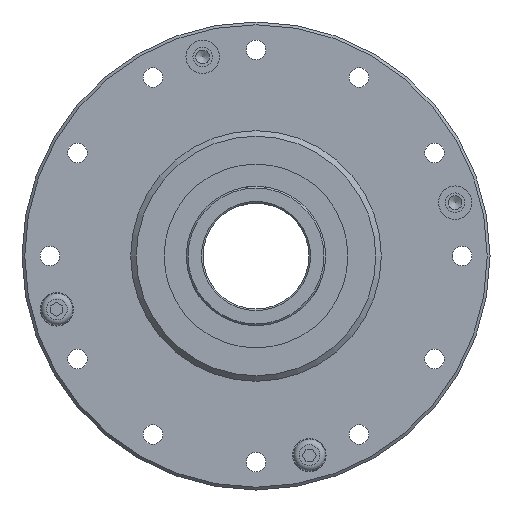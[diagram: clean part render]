
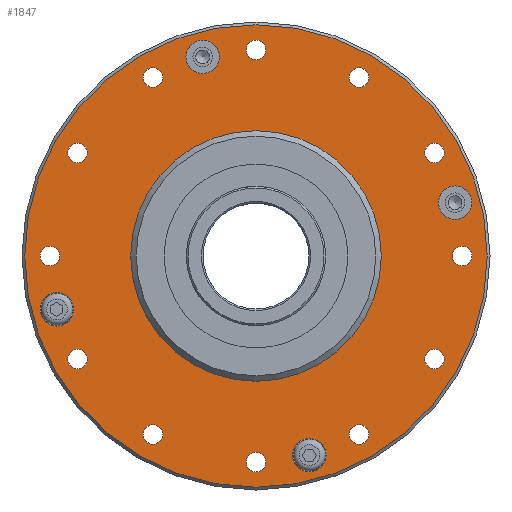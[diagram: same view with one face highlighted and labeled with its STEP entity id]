
A CAD part, front view. The second image highlights one B-rep face of the part: STEP entity #1847.
In plain terms, the highlighted planar face has unit normal (0, -1, 0).
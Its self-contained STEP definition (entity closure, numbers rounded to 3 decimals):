
#1275=PLANE('',#8773);
#1482=FACE_OUTER_BOUND('',#3621,.T.);
#1847=ADVANCED_FACE('',(#1482,#2729,#2730,#2731,#2732,#2733,#2734,#2735,
#2736,#2737,#2738,#2739,#2740,#2741,#2742,#2743,#2744,#2745),#1275,.T.);
#2729=FACE_BOUND('',#3622,.T.);
#2730=FACE_BOUND('',#3623,.T.);
#2731=FACE_BOUND('',#3624,.T.);
#2732=FACE_BOUND('',#3625,.T.);
#2733=FACE_BOUND('',#3626,.T.);
#2734=FACE_BOUND('',#3627,.T.);
#2735=FACE_BOUND('',#3628,.T.);
#2736=FACE_BOUND('',#3629,.T.);
#2737=FACE_BOUND('',#3630,.T.);
#2738=FACE_BOUND('',#3631,.T.);
#2739=FACE_BOUND('',#3632,.T.);
#2740=FACE_BOUND('',#3633,.T.);
#2741=FACE_BOUND('',#3634,.T.);
#2742=FACE_BOUND('',#3635,.T.);
#2743=FACE_BOUND('',#3636,.T.);
#2744=FACE_BOUND('',#3637,.T.);
#2745=FACE_BOUND('',#3638,.T.);
#3621=EDGE_LOOP('',(#4728));
#3622=EDGE_LOOP('',(#4729));
#3623=EDGE_LOOP('',(#4730));
#3624=EDGE_LOOP('',(#4731));
#3625=EDGE_LOOP('',(#4732));
#3626=EDGE_LOOP('',(#4733));
#3627=EDGE_LOOP('',(#4734));
#3628=EDGE_LOOP('',(#4735));
#3629=EDGE_LOOP('',(#4736));
#3630=EDGE_LOOP('',(#4737));
#3631=EDGE_LOOP('',(#4738));
#3632=EDGE_LOOP('',(#4739));
#3633=EDGE_LOOP('',(#4740));
#3634=EDGE_LOOP('',(#4741));
#3635=EDGE_LOOP('',(#4742));
#3636=EDGE_LOOP('',(#4743));
#3637=EDGE_LOOP('',(#4744));
#3638=EDGE_LOOP('',(#4745));
#4728=ORIENTED_EDGE('',*,*,#7136,.T.);
#4729=ORIENTED_EDGE('',*,*,#7137,.T.);
#4730=ORIENTED_EDGE('',*,*,#7138,.T.);
#4731=ORIENTED_EDGE('',*,*,#7139,.T.);
#4732=ORIENTED_EDGE('',*,*,#7140,.T.);
#4733=ORIENTED_EDGE('',*,*,#7141,.T.);
#4734=ORIENTED_EDGE('',*,*,#7142,.T.);
#4735=ORIENTED_EDGE('',*,*,#7143,.T.);
#4736=ORIENTED_EDGE('',*,*,#7144,.T.);
#4737=ORIENTED_EDGE('',*,*,#7145,.T.);
#4738=ORIENTED_EDGE('',*,*,#7146,.T.);
#4739=ORIENTED_EDGE('',*,*,#7147,.T.);
#4740=ORIENTED_EDGE('',*,*,#7148,.T.);
#4741=ORIENTED_EDGE('',*,*,#7149,.T.);
#4742=ORIENTED_EDGE('',*,*,#7150,.T.);
#4743=ORIENTED_EDGE('',*,*,#7151,.T.);
#4744=ORIENTED_EDGE('',*,*,#7152,.T.);
#4745=ORIENTED_EDGE('',*,*,#7153,.T.);
#6361=VERTEX_POINT('',#13145);
#6362=VERTEX_POINT('',#13147);
#6363=VERTEX_POINT('',#13149);
#6364=VERTEX_POINT('',#13151);
#6365=VERTEX_POINT('',#13153);
#6366=VERTEX_POINT('',#13155);
#6367=VERTEX_POINT('',#13157);
#6368=VERTEX_POINT('',#13159);
#6369=VERTEX_POINT('',#13161);
#6370=VERTEX_POINT('',#13163);
#6371=VERTEX_POINT('',#13165);
#6372=VERTEX_POINT('',#13167);
#6373=VERTEX_POINT('',#13169);
#6374=VERTEX_POINT('',#13171);
#6375=VERTEX_POINT('',#13173);
#6376=VERTEX_POINT('',#13175);
#6377=VERTEX_POINT('',#13177);
#6378=VERTEX_POINT('',#13179);
#7136=EDGE_CURVE('',#6361,#6361,#7980,.T.);
#7137=EDGE_CURVE('',#6362,#6362,#7981,.T.);
#7138=EDGE_CURVE('',#6363,#6363,#7982,.T.);
#7139=EDGE_CURVE('',#6364,#6364,#7983,.T.);
#7140=EDGE_CURVE('',#6365,#6365,#7984,.T.);
#7141=EDGE_CURVE('',#6366,#6366,#7985,.T.);
#7142=EDGE_CURVE('',#6367,#6367,#7986,.T.);
#7143=EDGE_CURVE('',#6368,#6368,#7987,.T.);
#7144=EDGE_CURVE('',#6369,#6369,#7988,.T.);
#7145=EDGE_CURVE('',#6370,#6370,#7989,.T.);
#7146=EDGE_CURVE('',#6371,#6371,#7990,.T.);
#7147=EDGE_CURVE('',#6372,#6372,#7991,.T.);
#7148=EDGE_CURVE('',#6373,#6373,#7992,.T.);
#7149=EDGE_CURVE('',#6374,#6374,#7993,.T.);
#7150=EDGE_CURVE('',#6375,#6375,#7994,.T.);
#7151=EDGE_CURVE('',#6376,#6376,#7995,.T.);
#7152=EDGE_CURVE('',#6377,#6377,#7996,.T.);
#7153=EDGE_CURVE('',#6378,#6378,#7997,.T.);
#7980=CIRCLE('',#8755,41.5);
#7981=CIRCLE('',#8756,3.);
#7982=CIRCLE('',#8757,3.);
#7983=CIRCLE('',#8758,3.);
#7984=CIRCLE('',#8759,3.);
#7985=CIRCLE('',#8760,1.75);
#7986=CIRCLE('',#8761,1.75);
#7987=CIRCLE('',#8762,1.75);
#7988=CIRCLE('',#8763,1.75);
#7989=CIRCLE('',#8764,1.75);
#7990=CIRCLE('',#8765,1.75);
#7991=CIRCLE('',#8766,1.75);
#7992=CIRCLE('',#8767,1.75);
#7993=CIRCLE('',#8768,1.75);
#7994=CIRCLE('',#8769,1.75);
#7995=CIRCLE('',#8770,1.75);
#7996=CIRCLE('',#8771,1.75);
#7997=CIRCLE('',#8772,22.5);
#8755=AXIS2_PLACEMENT_3D('',#13144,#10195,#10196);
#8756=AXIS2_PLACEMENT_3D('',#13146,#10197,#10198);
#8757=AXIS2_PLACEMENT_3D('',#13148,#10199,#10200);
#8758=AXIS2_PLACEMENT_3D('',#13150,#10201,#10202);
#8759=AXIS2_PLACEMENT_3D('',#13152,#10203,#10204);
#8760=AXIS2_PLACEMENT_3D('',#13154,#10205,#10206);
#8761=AXIS2_PLACEMENT_3D('',#13156,#10207,#10208);
#8762=AXIS2_PLACEMENT_3D('',#13158,#10209,#10210);
#8763=AXIS2_PLACEMENT_3D('',#13160,#10211,#10212);
#8764=AXIS2_PLACEMENT_3D('',#13162,#10213,#10214);
#8765=AXIS2_PLACEMENT_3D('',#13164,#10215,#10216);
#8766=AXIS2_PLACEMENT_3D('',#13166,#10217,#10218);
#8767=AXIS2_PLACEMENT_3D('',#13168,#10219,#10220);
#8768=AXIS2_PLACEMENT_3D('',#13170,#10221,#10222);
#8769=AXIS2_PLACEMENT_3D('',#13172,#10223,#10224);
#8770=AXIS2_PLACEMENT_3D('',#13174,#10225,#10226);
#8771=AXIS2_PLACEMENT_3D('',#13176,#10227,#10228);
#8772=AXIS2_PLACEMENT_3D('',#13178,#10229,#10230);
#8773=AXIS2_PLACEMENT_3D('',#13180,#10231,#10232);
#10195=DIRECTION('',(0.,-1.,0.));
#10196=DIRECTION('',(0.,0.,-1.));
#10197=DIRECTION('',(0.,1.,0.));
#10198=DIRECTION('',(0.,0.,1.));
#10199=DIRECTION('',(0.,1.,0.));
#10200=DIRECTION('',(0.,0.,1.));
#10201=DIRECTION('',(0.,1.,0.));
#10202=DIRECTION('',(0.,0.,1.));
#10203=DIRECTION('',(0.,1.,0.));
#10204=DIRECTION('',(0.,0.,1.));
#10205=DIRECTION('',(0.,1.,0.));
#10206=DIRECTION('',(-0.5,0.,0.866));
#10207=DIRECTION('',(0.,1.,0.));
#10208=DIRECTION('',(-0.866,0.,0.5));
#10209=DIRECTION('',(0.,1.,0.));
#10210=DIRECTION('',(-1.,0.,0.));
#10211=DIRECTION('',(0.,1.,0.));
#10212=DIRECTION('',(-0.866,0.,-0.5));
#10213=DIRECTION('',(0.,1.,0.));
#10214=DIRECTION('',(-0.5,0.,-0.866));
#10215=DIRECTION('',(0.,1.,0.));
#10216=DIRECTION('',(0.,0.,-1.));
#10217=DIRECTION('',(0.,1.,0.));
#10218=DIRECTION('',(0.5,0.,-0.866));
#10219=DIRECTION('',(0.,1.,0.));
#10220=DIRECTION('',(0.866,0.,-0.5));
#10221=DIRECTION('',(0.,1.,0.));
#10222=DIRECTION('',(1.,0.,0.));
#10223=DIRECTION('',(0.,1.,0.));
#10224=DIRECTION('',(0.866,0.,0.5));
#10225=DIRECTION('',(0.,1.,0.));
#10226=DIRECTION('',(0.5,0.,0.866));
#10227=DIRECTION('',(0.,1.,0.));
#10228=DIRECTION('',(0.,0.,1.));
#10229=DIRECTION('',(0.,1.,0.));
#10230=DIRECTION('',(0.,0.,1.));
#10231=DIRECTION('',(0.,-1.,0.));
#10232=DIRECTION('',(0.,0.,-1.));
#13144=CARTESIAN_POINT('',(0.,-30.5,0.));
#13145=CARTESIAN_POINT('',(0.,-30.5,-41.5));
#13146=CARTESIAN_POINT('',(-35.739,-30.5,-9.576));
#13147=CARTESIAN_POINT('',(-35.739,-30.5,-6.576));
#13148=CARTESIAN_POINT('',(-9.576,-30.5,35.739));
#13149=CARTESIAN_POINT('',(-9.576,-30.5,38.739));
#13150=CARTESIAN_POINT('',(35.739,-30.5,9.576));
#13151=CARTESIAN_POINT('',(35.739,-30.5,12.576));
#13152=CARTESIAN_POINT('',(9.576,-30.5,-35.739));
#13153=CARTESIAN_POINT('',(9.576,-30.5,-32.739));
#13154=CARTESIAN_POINT('',(32.043,-30.5,18.5));
#13155=CARTESIAN_POINT('',(31.168,-30.5,20.016));
#13156=CARTESIAN_POINT('',(18.5,-30.5,32.043));
#13157=CARTESIAN_POINT('',(16.984,-30.5,32.918));
#13158=CARTESIAN_POINT('',(0.,-30.5,37.));
#13159=CARTESIAN_POINT('',(-1.75,-30.5,37.));
#13160=CARTESIAN_POINT('',(-18.5,-30.5,32.043));
#13161=CARTESIAN_POINT('',(-20.016,-30.5,31.168));
#13162=CARTESIAN_POINT('',(-32.043,-30.5,18.5));
#13163=CARTESIAN_POINT('',(-32.918,-30.5,16.984));
#13164=CARTESIAN_POINT('',(-37.,-30.5,0.));
#13165=CARTESIAN_POINT('',(-37.,-30.5,-1.75));
#13166=CARTESIAN_POINT('',(-32.043,-30.5,-18.5));
#13167=CARTESIAN_POINT('',(-31.168,-30.5,-20.016));
#13168=CARTESIAN_POINT('',(-18.5,-30.5,-32.043));
#13169=CARTESIAN_POINT('',(-16.984,-30.5,-32.918));
#13170=CARTESIAN_POINT('',(0.,-30.5,-37.));
#13171=CARTESIAN_POINT('',(1.75,-30.5,-37.));
#13172=CARTESIAN_POINT('',(18.5,-30.5,-32.043));
#13173=CARTESIAN_POINT('',(20.016,-30.5,-31.168));
#13174=CARTESIAN_POINT('',(32.043,-30.5,-18.5));
#13175=CARTESIAN_POINT('',(32.918,-30.5,-16.984));
#13176=CARTESIAN_POINT('',(37.,-30.5,0.));
#13177=CARTESIAN_POINT('',(37.,-30.5,1.75));
#13178=CARTESIAN_POINT('',(0.,-30.5,0.));
#13179=CARTESIAN_POINT('',(0.,-30.5,22.5));
#13180=CARTESIAN_POINT('',(-40.,-30.5,0.));
